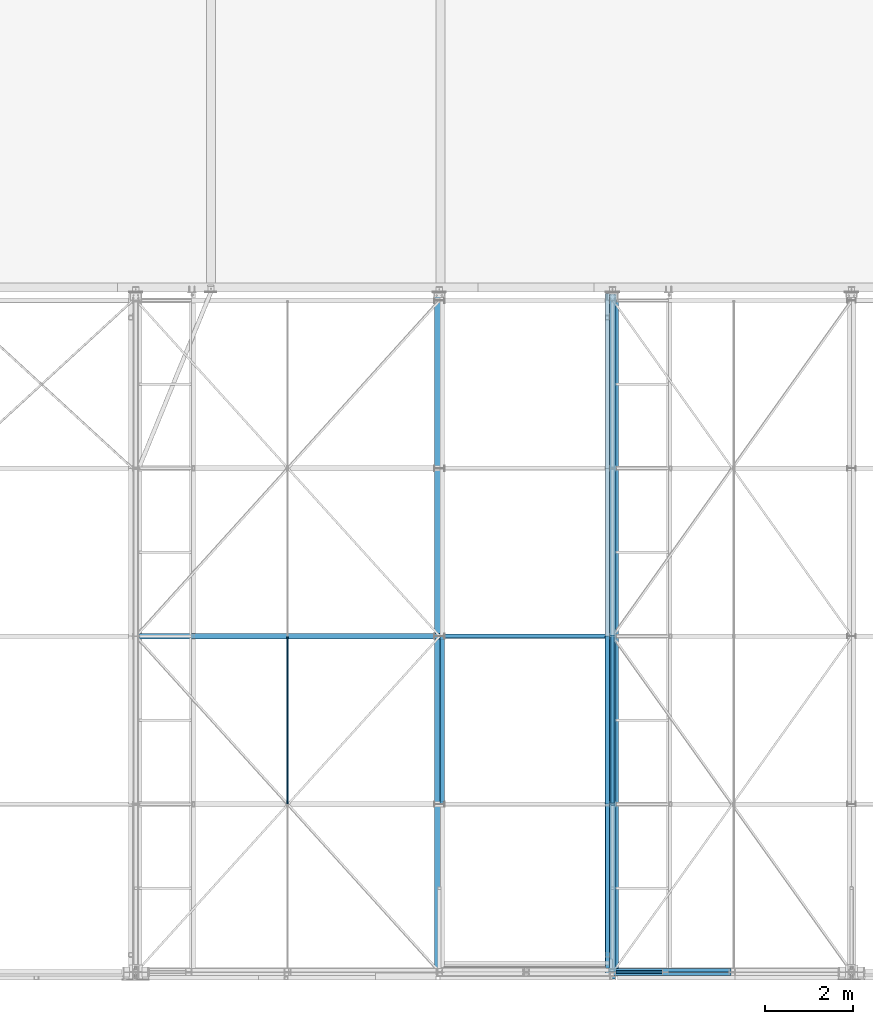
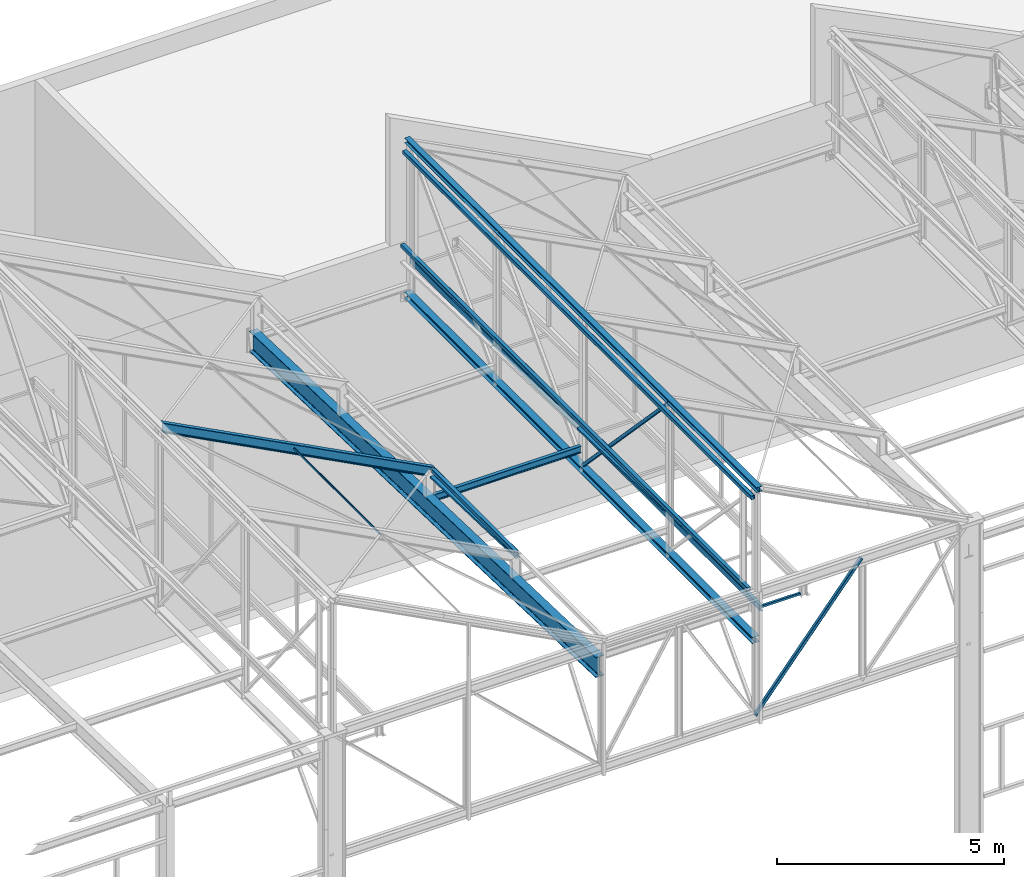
# One storey, part 31 of 123: 12 beams, 4 members, 16 elements without a shape of their own.
"""IFC2X3 building model written with IfcOpenShell, lengths in millimetres."""

from ifc_helpers import new_model, si_unit, frame, origin_with_axes, origin_2d_with_axis, place, context, subcontext, project, spatial, hollow_rectangle, i_section, l_section, u_section, extrude, clip, halfspace, material, type_object, element, aggregate, save


model = new_model("IFC2X3")

# Units and contexts
model_context = context("Model", 3, precision=1e-05, world=origin_with_axes())
body_context = subcontext(model_context, "Body", "Model", "MODEL_VIEW")
ifc_project = project(units=[si_unit("LENGTHUNIT", "METRE", prefix="MILLI"), si_unit("AREAUNIT", "SQUARE_METRE"), si_unit("VOLUMEUNIT", "CUBIC_METRE"), si_unit("MASSUNIT", "GRAM", prefix="KILO"), si_unit("TIMEUNIT", "SECOND"), si_unit("PLANEANGLEUNIT", "RADIAN"), si_unit("SOLIDANGLEUNIT", "STERADIAN"), si_unit("THERMODYNAMICTEMPERATUREUNIT", "DEGREE_CELSIUS"), si_unit("LUMINOUSINTENSITYUNIT", "LUMEN")], contexts=[model_context])

# Site, building, storey
site_placement = place(None, origin_with_axes())
site = spatial("IfcSite", under=ifc_project, at=site_placement, Name="Undefined", CompositionType="ELEMENT")
building_placement = place(site_placement, origin_with_axes())
building = spatial("IfcBuilding", under=site, at=building_placement, Name="Undefined", CompositionType="ELEMENT")
storey_placement = place(building_placement, origin_with_axes())
storey = spatial("IfcBuildingStorey", under=building, at=storey_placement, Name="Undefined", CompositionType="ELEMENT", Elevation=0.0)

# Assembly, beam
assembly_1_placement = place(storey_placement, origin_with_axes())
assembly_1 = element("IfcElementAssembly", 1, at=assembly_1_placement, inside=storey, Name="Steel Assembly", AssemblyPlace="NOTDEFINED", PredefinedType="RIGID_FRAME")
ifc_material_1 = material(Name="STEEL/S235-E24")
beam_type_1 = type_object("IfcBeamType", Name="UPF-100*50*4", PredefinedType="NOTDEFINED")
beam_1_placement = place(assembly_1_placement, frame((23353.5000000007, 3800.0, 8410.85601504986), z_axis=(1.0, 0.0, 0.0), x_axis=(0.0, 0.999506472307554, -0.0314135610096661)))
beam_1 = element("IfcBeam", 2, at=beam_1_placement, type_object=beam_type_1, material=ifc_material_1, Name="LISSE CONTREBARDAGE", ObjectType="UPF-100*50*4", context=body_context, shape_type="SweptSolid", body=[
    extrude(u_section(Depth=100.0, FlangeWidth=50.0, WebThickness=4.0, FlangeThickness=4.0, at=origin_2d_with_axis()), frame((3801.87643069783, 2.63808171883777e-14, 0.0), z_axis=(-1.0, 0.0, 0.0), x_axis=(0.0, -1.0, 0.0)), (0.0, 0.0, 1.0), 3801.9),
])
aggregate(assembly_1, [beam_1])

assembly_2_placement = place(storey_placement, origin_with_axes())
assembly_2 = element("IfcElementAssembly", 3, at=assembly_2_placement, inside=storey, Name="Steel Assembly", AssemblyPlace="NOTDEFINED", PredefinedType="RIGID_FRAME")
beam_2_placement = place(assembly_2_placement, frame((19620.0000000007, 3800.0, 8410.85601504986), z_axis=(1.0, 0.0, 0.0), x_axis=(0.0, 0.999506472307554, -0.0314135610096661)))
beam_2 = element("IfcBeam", 4, at=beam_2_placement, type_object=beam_type_1, material=ifc_material_1, Name="LISSE CONTREBARDAGE", ObjectType="UPF-100*50*4", context=body_context, shape_type="SweptSolid", body=[
    extrude(u_section(Depth=100.0, FlangeWidth=50.0, WebThickness=4.0, FlangeThickness=4.0, at=origin_2d_with_axis()), frame((3801.87643069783, 2.63808171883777e-14, 0.0), z_axis=(-1.0, 0.0, 0.0), x_axis=(0.0, -1.0, 0.0)), (0.0, 0.0, 1.0), 3801.9),
])
aggregate(assembly_2, [beam_2])

# Assembly, member
assembly_3_placement = place(storey_placement, origin_with_axes())
assembly_3 = element("IfcElementAssembly", 5, at=assembly_3_placement, inside=storey, Name="Steel Assembly", AssemblyPlace="NOTDEFINED", PredefinedType="RIGID_FRAME")
member_type_1 = type_object("IfcMemberType", Name="L70*7", PredefinedType="NOTDEFINED")
member_1_placement = place(assembly_3_placement, frame((23470.0000000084, 40.000000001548, 5129.99999999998), z_axis=(0.771488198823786, 0.0, -0.636243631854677), x_axis=(0.636243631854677, 0.0, 0.771488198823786)))
member_1 = element("IfcMember", 6, at=member_1_placement, type_object=member_type_1, material=ifc_material_1, Name="DIAGONALE", ObjectType="L70*7", context=body_context, shape_type="SweptSolid", body=[
    extrude(l_section(Depth=70.0, Width=70.0, Thickness=7.0, FilletRadius=9.0, EdgeRadius=4.5, at=origin_2d_with_axis()), frame((4251.51603167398, 0.0, -2.36006549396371e-13), z_axis=(-1.0, 0.0, 0.0), x_axis=(0.0, -1.0, 0.0)), (0.0, 0.0, 1.0), 4251.5),
])
aggregate(assembly_3, [member_1])

assembly_4_placement = place(storey_placement, origin_with_axes())
assembly_4 = element("IfcElementAssembly", 7, at=assembly_4_placement, inside=storey, Name="Steel Assembly", AssemblyPlace="NOTDEFINED", PredefinedType="RIGID_FRAME")
member_2_placement = place(assembly_4_placement, frame((26175.0000000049, -40.0000000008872, 8409.99444626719), z_axis=(0.771488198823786, 0.0, -0.636243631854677), x_axis=(-0.636243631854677, 0.0, -0.771488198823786)))
member_2 = element("IfcMember", 8, at=member_2_placement, type_object=member_type_1, material=ifc_material_1, Name="DIAGONALE", ObjectType="L70*7", context=body_context, shape_type="SweptSolid", body=[
    extrude(l_section(Depth=70.0, Width=70.0, Thickness=7.0, FilletRadius=9.0, EdgeRadius=4.5, at=origin_2d_with_axis()), frame((4251.51603167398, 0.0, -2.36006549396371e-13), z_axis=(-1.0, 0.0, 0.0), x_axis=(0.0, -1.0, 0.0)), (0.0, 0.0, 1.0), 4251.5),
])
aggregate(assembly_4, [member_2])

# Assembly, beam
assembly_5_placement = place(storey_placement, origin_with_axes())
assembly_5 = element("IfcElementAssembly", 9, at=assembly_5_placement, inside=storey, Name="Steel Assembly", AssemblyPlace="NOTDEFINED", PredefinedType="RIGID_FRAME")
beam_type_2 = type_object("IfcBeamType", Name="TUBE-C-60*60*3", PredefinedType="NOTDEFINED")
beam_3_placement = place(assembly_5_placement, frame((23545.0000563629, 0.0, 8015.0), z_axis=(0.0, -1.0, 0.0), x_axis=(1.0, 0.0, 0.0)))
beam_3 = element("IfcBeam", 10, at=beam_3_placement, type_object=beam_type_2, material=ifc_material_1, Name="SOLIVE", ObjectType="TUBE-C-60*60*3", context=body_context, shape_type="SweptSolid", body=[
    extrude(hollow_rectangle(XDim=60.0, YDim=60.0, WallThickness=3.0, InnerFilletRadius=3.0, OuterFilletRadius=6.0, at=origin_2d_with_axis()), frame((1051.49154428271, 0.0, 0.0), z_axis=(-1.0, 0.0, 0.0), x_axis=(0.0, -1.0, 0.0)), (0.0, 0.0, 1.0), 1051.5),
])
aggregate(assembly_5, [beam_3])

assembly_6_placement = place(storey_placement, origin_with_axes())
assembly_6 = element("IfcElementAssembly", 11, at=assembly_6_placement, inside=storey, Name="Steel Assembly", AssemblyPlace="NOTDEFINED", PredefinedType="RIGID_FRAME")
beam_type_3 = type_object("IfcBeamType", Name="TUBE-C-100*100*4", PredefinedType="NOTDEFINED")
beam_4_placement = place(assembly_6_placement, frame((23353.5000012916, -70.0000009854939, 11069.999999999), z_axis=(0.0, 0.0, -1.0), x_axis=(0.0, 1.0, 0.0)))
beam_4 = element("IfcBeam", 12, at=beam_4_placement, type_object=beam_type_3, material=ifc_material_1, Name="LISSE ACROTERE", ObjectType="TUBE-C-100*100*4", context=body_context, shape_type="SweptSolid", body=[
    extrude(hollow_rectangle(XDim=100.0, YDim=100.0, WallThickness=4.0, InnerFilletRadius=4.0, OuterFilletRadius=8.0, at=origin_2d_with_axis()), frame((15340.0000000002, 0.0, 0.0), z_axis=(-1.0, 0.0, 0.0), x_axis=(0.0, -1.0, 0.0)), (0.0, 0.0, 1.0), 15340.0),
])
aggregate(assembly_6, [beam_4])

assembly_7_placement = place(storey_placement, origin_with_axes())
assembly_7 = element("IfcElementAssembly", 13, at=assembly_7_placement, inside=storey, Name="Steel Assembly", AssemblyPlace="NOTDEFINED", PredefinedType="RIGID_FRAME")
beam_5_placement = place(assembly_7_placement, frame((23353.5, 105.0, 8500.0), z_axis=(0.0, 0.0, 1.0), x_axis=(0.0, 1.0, 0.0)))
beam_5 = element("IfcBeam", 14, at=beam_5_placement, type_object=beam_type_3, material=ifc_material_1, Name="LISSE ACROTERE", ObjectType="TUBE-C-100*100*4", context=body_context, shape_type="SweptSolid", body=[
    extrude(hollow_rectangle(XDim=100.0, YDim=100.0, WallThickness=4.0, InnerFilletRadius=4.0, OuterFilletRadius=8.0, at=origin_2d_with_axis()), frame((15255.0, 0.0, 0.0), z_axis=(-1.0, 0.0, 0.0), x_axis=(0.0, -1.0, 0.0)), (0.0, 0.0, 1.0), 15255.0),
])
aggregate(assembly_7, [beam_5])

assembly_8_placement = place(storey_placement, origin_with_axes())
assembly_8 = element("IfcElementAssembly", 15, at=assembly_8_placement, inside=storey, Name="Steel Assembly", AssemblyPlace="NOTDEFINED", PredefinedType="RIGID_FRAME")
beam_6_placement = place(assembly_8_placement, frame((19619.9999999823, 3865.0, 8500.0), z_axis=(0.0, 0.0, 1.0), x_axis=(0.0, 1.0, 0.0)))
beam_6 = element("IfcBeam", 16, at=beam_6_placement, type_object=beam_type_3, material=ifc_material_1, Name="LISSE ACROTERE", ObjectType="TUBE-C-100*100*4", context=body_context, shape_type="SweptSolid", body=[
    extrude(hollow_rectangle(XDim=100.0, YDim=100.0, WallThickness=4.0, InnerFilletRadius=4.0, OuterFilletRadius=8.0, at=origin_2d_with_axis()), frame((3670.0, 0.0, 0.0), z_axis=(-1.0, 0.0, 0.0), x_axis=(0.0, -1.0, 0.0)), (0.0, 0.0, 1.0), 3670.0),
])
aggregate(assembly_8, [beam_6])

# Assembly, member
assembly_9_placement = place(storey_placement, origin_with_axes())
assembly_9 = element("IfcElementAssembly", 17, at=assembly_9_placement, inside=storey, Name="Steel Assembly", AssemblyPlace="NOTDEFINED", PredefinedType="RIGID_FRAME")
member_type_2 = type_object("IfcMemberType", Name="TUBE-C-80*80*4", PredefinedType="NOTDEFINED")
member_3_placement = place(assembly_9_placement, frame((23470.0000000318, 3800.00552228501, 11236.0), z_axis=(-1.0, 0.0, 0.0), x_axis=(0.0, 0.690017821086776, -0.723792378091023)))
member_3 = element("IfcMember", 18, at=member_3_placement, type_object=member_type_2, material=ifc_material_1, Name="DIAGONALE", ObjectType="TUBE-C-80*80*4", context=body_context, shape_type="SweptSolid", body=[
    extrude(hollow_rectangle(XDim=80.0, YDim=80.0, WallThickness=4.0, InnerFilletRadius=4.0, OuterFilletRadius=8.0, at=origin_2d_with_axis()), frame((5507.10413919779, -2.12469509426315e-12, 0.0), z_axis=(-1.0, 0.0, 0.0), x_axis=(0.0, -1.0, 0.0)), (0.0, 0.0, 1.0), 5507.1),
])
aggregate(assembly_9, [member_3])

# Assembly, beam
assembly_10_placement = place(storey_placement, origin_with_axes())
assembly_10 = element("IfcElementAssembly", 19, at=assembly_10_placement, inside=storey, Name="Steel Assembly", AssemblyPlace="NOTDEFINED", PredefinedType="RIGID_FRAME")
beam_type_4 = type_object("IfcBeamType", Name="UPF-150*70*5", PredefinedType="NOTDEFINED")
beam_7_placement = place(assembly_10_placement, frame((23571.5000574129, -69.999999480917, 8025.0), z_axis=(0.0, 0.0, 1.0), x_axis=(0.0, 1.0, 0.0)))
beam_7 = element("IfcBeam", 20, at=beam_7_placement, type_object=beam_type_4, material=ifc_material_1, Name="LONGERON", ObjectType="UPF-150*70*5", context=body_context, shape_type="SweptSolid", body=[
    extrude(u_section(Depth=150.0, FlangeWidth=70.0, WebThickness=5.0, FlangeThickness=5.0, at=origin_2d_with_axis()), frame((15430.0000805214, 5.1053587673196e-20, 0.0), z_axis=(-1.0, 0.0, 0.0), x_axis=(0.0, -1.0, 0.0)), (0.0, 0.0, 1.0), 15430.0),
])
aggregate(assembly_10, [beam_7])

assembly_11_placement = place(storey_placement, origin_with_axes())
assembly_11 = element("IfcElementAssembly", 21, at=assembly_11_placement, inside=storey, Name="Steel Assembly", AssemblyPlace="NOTDEFINED", PredefinedType="RIGID_FRAME")
beam_type_5 = type_object("IfcBeamType", Name="TUBE-C-40*40*4", PredefinedType="NOTDEFINED")
beam_8_placement = place(assembly_11_placement, frame((16115.0000007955, 7600.00000000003, 10274.2688892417), z_axis=(-0.886082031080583, 0.0, 0.463528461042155), x_axis=(0.0, -1.0, 0.0)))
beam_8 = element("IfcBeam", 22, at=beam_8_placement, type_object=beam_type_5, material=ifc_material_1, Name="BUTON", ObjectType="TUBE-C-40*40*4", context=body_context, shape_type="SweptSolid", body=[
    extrude(hollow_rectangle(XDim=40.0, YDim=40.0, WallThickness=4.0, InnerFilletRadius=4.0, OuterFilletRadius=8.0, at=origin_2d_with_axis()), frame((3799.99999999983, 0.0, 0.0), z_axis=(-1.0, 0.0, 0.0), x_axis=(0.0, -1.0, 0.0)), (0.0, 0.0, 1.0), 3800.0),
])
aggregate(assembly_11, [beam_8])

# Assembly, member
assembly_12_placement = place(storey_placement, origin_with_axes())
assembly_12 = element("IfcElementAssembly", 23, at=assembly_12_placement, inside=storey, Name="Steel Assembly", AssemblyPlace="NOTDEFINED", PredefinedType="RIGID_FRAME")
ifc_material_2 = material(Name="STEEL/S275-E28")
member_type_3 = type_object("IfcMemberType", Name="IPE240", PredefinedType="NOTDEFINED")
member_4_placement = place(assembly_12_placement, frame((12694.3765846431, 7599.99999999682, 12063.6701562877), z_axis=(0.463528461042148, -7.00000004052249e-09, 0.886082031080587), x_axis=(0.886082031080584, 0.0, -0.463528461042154)))
member_4 = element("IfcMember", 24, at=member_4_placement, type_object=member_type_3, material=ifc_material_2, Name="TRAVERSE SHED", ObjectType="IPE240", context=body_context, shape_type="Clipping", body=[
    clip(clip(extrude(i_section(OverallWidth=120.0, OverallDepth=240.0, WebThickness=6.199999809, FlangeThickness=9.800000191, FilletRadius=15.0, at=origin_2d_with_axis()), frame((7941.81660004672, 0.0, 4.40859382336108e-13), z_axis=(-1.0, 0.0, 0.0), x_axis=(0.0, -1.0, 0.0)), (0.0, 0.0, 1.0), 8083.9), halfspace(frame((7809.66068490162, -3799.99999999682, 119.999998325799), z_axis=(-0.855432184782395, 0.0, 0.517914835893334), x_axis=(0.0, -1.0, 0.0)), True)), halfspace(frame((0.0, 0.0, 120.0), z_axis=(-0.886082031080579, 0.0, -0.463528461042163), x_axis=(0.0, -1.0, 0.0)), False)),
])
aggregate(assembly_12, [member_4])

# Assembly, beam
assembly_13_placement = place(storey_placement, origin_with_axes())
assembly_13 = element("IfcElementAssembly", 25, at=assembly_13_placement, inside=storey, Name="Steel Assembly", AssemblyPlace="NOTDEFINED", PredefinedType="RIGID_FRAME")
beam_type_6 = type_object("IfcBeamType", Name="IPE180", PredefinedType="NOTDEFINED")
beam_9_placement = place(assembly_13_placement, frame((19664.9999999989, 7599.99999999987, 7721.11590289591), z_axis=(0.0, 0.0314107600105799, 0.999506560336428), x_axis=(1.0, 0.0, 0.0)))
beam_9 = element("IfcBeam", 26, at=beam_9_placement, type_object=beam_type_6, material=ifc_material_2, Name="PANNE", ObjectType="IPE180", context=body_context, shape_type="SweptSolid", body=[
    extrude(i_section(OverallWidth=91.0, OverallDepth=180.0, WebThickness=5.300000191, FlangeThickness=8.0, FilletRadius=9.0, at=origin_2d_with_axis()), frame((3729.99999999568, 0.0, 0.0), z_axis=(-1.0, 0.0, 0.0), x_axis=(0.0, -1.0, 0.0)), (0.0, 0.0, 1.0), 3730.0),
])
aggregate(assembly_13, [beam_9])

assembly_14_placement = place(storey_placement, origin_with_axes())
assembly_14 = element("IfcElementAssembly", 27, at=assembly_14_placement, inside=storey, Name="Steel Assembly", AssemblyPlace="NOTDEFINED", PredefinedType="RIGID_FRAME")
beam_type_7 = type_object("IfcBeamType", Name="HEA140", PredefinedType="NOTDEFINED")
beam_10_placement = place(assembly_14_placement, frame((23470.0, 15360.0, 11302.5), z_axis=(0.0, 0.0, 1.0), x_axis=(0.0, -1.0, 0.0)))
beam_10 = element("IfcBeam", 28, at=beam_10_placement, type_object=beam_type_7, material=ifc_material_2, Name="LONGERON", ObjectType="HEA140", context=body_context, shape_type="SweptSolid", body=[
    extrude(i_section(OverallWidth=140.0, OverallDepth=133.0, WebThickness=5.5, FlangeThickness=8.5, FilletRadius=12.0, at=origin_2d_with_axis()), frame((15520.0, 0.0, 0.0), z_axis=(-1.0, 0.0, 0.0), x_axis=(0.0, -1.0, 0.0)), (0.0, 0.0, 1.0), 15520.0),
])
aggregate(assembly_14, [beam_10])

assembly_15_placement = place(storey_placement, origin_with_axes())
assembly_15 = element("IfcElementAssembly", 29, at=assembly_15_placement, inside=storey, Name="Steel Assembly", AssemblyPlace="NOTDEFINED", PredefinedType="RIGID_FRAME")
beam_type_8 = type_object("IfcBeamType", Name="HEA180", PredefinedType="NOTDEFINED")
beam_11_placement = place(assembly_15_placement, frame((23470.0, 15350.0, 7164.5), z_axis=(0.0, 0.0, 1.0), x_axis=(0.0, -1.0, 0.0)))
beam_11 = element("IfcBeam", 30, at=beam_11_placement, type_object=beam_type_8, material=ifc_material_2, Name="LONGERON", ObjectType="HEA180", context=body_context, shape_type="SweptSolid", body=[
    extrude(i_section(OverallWidth=180.0, OverallDepth=171.0, WebThickness=6.0, FlangeThickness=9.5, FilletRadius=15.0, at=origin_2d_with_axis()), frame((15350.0, 0.0, 0.0), z_axis=(-1.0, 0.0, 0.0), x_axis=(0.0, -1.0, 0.0)), (0.0, 0.0, 1.0), 15350.0),
])
aggregate(assembly_15, [beam_11])

assembly_16_placement = place(storey_placement, origin_with_axes())
assembly_16 = element("IfcElementAssembly", 31, at=assembly_16_placement, inside=storey, Name="Steel Assembly", AssemblyPlace="NOTDEFINED", PredefinedType="RIGID_FRAME")
beam_type_9 = type_object("IfcBeamType", Name="IPE550", PredefinedType="NOTDEFINED")
beam_12_placement = place(assembly_16_placement, frame((19550.0000000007, -8.63795872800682, 7775.13569589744), z_axis=(0.0, -0.0314107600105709, -0.999506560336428), x_axis=(0.0, 0.999506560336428, -0.0314107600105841)))
beam_12 = element("IfcBeam", 32, at=beam_12_placement, type_object=beam_type_9, material=ifc_material_2, Name="TRAVERSE", ObjectType="IPE550", context=body_context, shape_type="Clipping", body=[
    clip(clip(extrude(i_section(OverallWidth=210.0, OverallDepth=550.0, WebThickness=11.10000038, FlangeThickness=17.20000076, FilletRadius=24.0, at=origin_2d_with_axis()), frame((15397.5977849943, 0.0, 0.0), z_axis=(-1.0, 0.0, 0.0), x_axis=(0.0, -1.0, 0.0)), (0.0, 0.0, 1.0), 15397.6), halfspace(frame((80.0394946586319, 105.0, -274.999999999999), z_axis=(-0.999506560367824, 0.0, 0.0314107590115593), x_axis=(0.0314107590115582, 0.0, 0.999506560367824)), False)), halfspace(frame((15357.5780376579, -105.0, -275.0), z_axis=(0.999506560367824, 0.0, -0.0314107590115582), x_axis=(0.0314107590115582, 0.0, 0.999506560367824)), False)),
])
aggregate(assembly_16, [beam_12])

save(model, "model.ifc")
